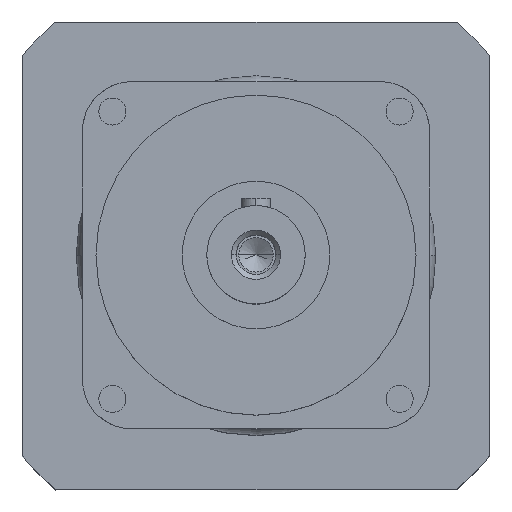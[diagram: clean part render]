
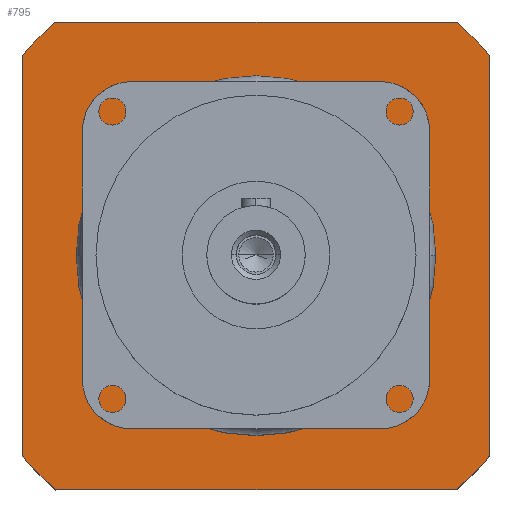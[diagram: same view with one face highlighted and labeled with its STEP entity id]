
A CAD part, top view. The second image highlights one B-rep face of the part: STEP entity #795.
In plain terms, the highlighted planar face has unit normal (0, 0, 1).
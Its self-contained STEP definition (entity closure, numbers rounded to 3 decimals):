
#26 = LINE ( 'NONE', #713, #2333 ) ;
#38 = CIRCLE ( 'NONE', #3123, 125. ) ;
#60 = VERTEX_POINT ( 'NONE', #3921 ) ;
#131 = CARTESIAN_POINT ( 'NONE',  ( 81.24, 95., -166.5 ) ) ;
#152 = ORIENTED_EDGE ( 'NONE', *, *, #1672, .T. ) ;
#178 = DIRECTION ( 'NONE',  ( -1., 0., 0. ) ) ;
#219 = DIRECTION ( 'NONE',  ( 0., 1., 0. ) ) ;
#243 = VECTOR ( 'NONE', #3460, 1000. ) ;
#298 = AXIS2_PLACEMENT_3D ( 'NONE', #967, #3140, #1279 ) ;
#362 = AXIS2_PLACEMENT_3D ( 'NONE', #2037, #3893, #1721 ) ;
#480 = EDGE_CURVE ( 'NONE', #2321, #1794, #26, .T. ) ;
#498 = DIRECTION ( 'NONE',  ( -1., 0., 0. ) ) ;
#617 = EDGE_CURVE ( 'NONE', #2606, #1172, #3416, .T. ) ;
#713 = CARTESIAN_POINT ( 'NONE',  ( -95., 0., -166.5 ) ) ;
#739 = VERTEX_POINT ( 'NONE', #131 ) ;
#795 = ADVANCED_FACE ( 'NONE', ( #3741, #2909 ), #3278, .F. ) ;
#953 = DIRECTION ( 'NONE',  ( 0., -1., 0. ) ) ;
#967 = CARTESIAN_POINT ( 'NONE',  ( 0., 0., -166.5 ) ) ;
#977 = EDGE_CURVE ( 'NONE', #739, #60, #3264, .T. ) ;
#1008 = CIRCLE ( 'NONE', #2947, 125. ) ;
#1147 = VECTOR ( 'NONE', #219, 1000. ) ;
#1170 = CARTESIAN_POINT ( 'NONE',  ( 95., 81.24, -166.5 ) ) ;
#1172 = VERTEX_POINT ( 'NONE', #2450 ) ;
#1227 = CARTESIAN_POINT ( 'NONE',  ( 0., 0., -166.5 ) ) ;
#1279 = DIRECTION ( 'NONE',  ( 1., 0., 0. ) ) ;
#1306 = EDGE_CURVE ( 'NONE', #60, #2321, #1465, .T. ) ;
#1430 = ORIENTED_EDGE ( 'NONE', *, *, #3221, .T. ) ;
#1438 = ORIENTED_EDGE ( 'NONE', *, *, #480, .T. ) ;
#1465 = CIRCLE ( 'NONE', #362, 125. ) ;
#1538 = DIRECTION ( 'NONE',  ( 1., 0., 0. ) ) ;
#1668 = VERTEX_POINT ( 'NONE', #2480 ) ;
#1672 = EDGE_CURVE ( 'NONE', #3829, #739, #1008, .T. ) ;
#1721 = DIRECTION ( 'NONE',  ( -1., 0., 0. ) ) ;
#1766 = DIRECTION ( 'NONE',  ( 0., 0., -1. ) ) ;
#1794 = VERTEX_POINT ( 'NONE', #3298 ) ;
#1819 = CARTESIAN_POINT ( 'NONE',  ( -73., 0., -166.5 ) ) ;
#1941 = CIRCLE ( 'NONE', #3503, 73. ) ;
#1989 = DIRECTION ( 'NONE',  ( 0., 0., 1. ) ) ;
#2029 = CARTESIAN_POINT ( 'NONE',  ( 95., 0., -166.5 ) ) ;
#2037 = CARTESIAN_POINT ( 'NONE',  ( 0., 0., -166.5 ) ) ;
#2098 = CARTESIAN_POINT ( 'NONE',  ( 0., 0., -166.5 ) ) ;
#2113 = DIRECTION ( 'NONE',  ( 0., 0., 1. ) ) ;
#2128 = DIRECTION ( 'NONE',  ( -1., 0., 0. ) ) ;
#2161 = VERTEX_POINT ( 'NONE', #1819 ) ;
#2321 = VERTEX_POINT ( 'NONE', #3477 ) ;
#2333 = VECTOR ( 'NONE', #953, 1000. ) ;
#2362 = CARTESIAN_POINT ( 'NONE',  ( 95., -95., -166.5 ) ) ;
#2369 = CARTESIAN_POINT ( 'NONE',  ( 95., -81.24, -166.5 ) ) ;
#2374 = ORIENTED_EDGE ( 'NONE', *, *, #3883, .F. ) ;
#2433 = VECTOR ( 'NONE', #2581, 1000. ) ;
#2450 = CARTESIAN_POINT ( 'NONE',  ( 81.24, -95., -166.5 ) ) ;
#2480 = CARTESIAN_POINT ( 'NONE',  ( 73., 0., -166.5 ) ) ;
#2497 = CIRCLE ( 'NONE', #298, 73. ) ;
#2556 = AXIS2_PLACEMENT_3D ( 'NONE', #2098, #2113, #2128 ) ;
#2569 = CARTESIAN_POINT ( 'NONE',  ( 0., 95., -166.5 ) ) ;
#2581 = DIRECTION ( 'NONE',  ( -1., 0., 0. ) ) ;
#2606 = VERTEX_POINT ( 'NONE', #3645 ) ;
#2620 = ORIENTED_EDGE ( 'NONE', *, *, #3403, .F. ) ;
#2624 = DIRECTION ( 'NONE',  ( -1., 0., 0. ) ) ;
#2641 = DIRECTION ( 'NONE',  ( 0., 0., 1. ) ) ;
#2656 = CARTESIAN_POINT ( 'NONE',  ( 0., 0., -166.5 ) ) ;
#2753 = EDGE_CURVE ( 'NONE', #1794, #2606, #3045, .T. ) ;
#2810 = ORIENTED_EDGE ( 'NONE', *, *, #617, .T. ) ;
#2857 = ORIENTED_EDGE ( 'NONE', *, *, #977, .T. ) ;
#2900 = EDGE_LOOP ( 'NONE', ( #1438, #3567, #2810, #3691, #1430, #152, #2857, #3433 ) ) ;
#2909 = FACE_OUTER_BOUND ( 'NONE', #2900, .T. ) ;
#2947 = AXIS2_PLACEMENT_3D ( 'NONE', #2656, #2641, #2624 ) ;
#2983 = EDGE_LOOP ( 'NONE', ( #2620, #2374 ) ) ;
#3045 = CIRCLE ( 'NONE', #2556, 125. ) ;
#3099 = EDGE_CURVE ( 'NONE', #1172, #3736, #38, .T. ) ;
#3123 = AXIS2_PLACEMENT_3D ( 'NONE', #3845, #1989, #178 ) ;
#3140 = DIRECTION ( 'NONE',  ( 0., 0., 1. ) ) ;
#3221 = EDGE_CURVE ( 'NONE', #3736, #3829, #3617, .T. ) ;
#3264 = LINE ( 'NONE', #2569, #2433 ) ;
#3278 = PLANE ( 'NONE',  #3740 ) ;
#3298 = CARTESIAN_POINT ( 'NONE',  ( -95., -81.24, -166.5 ) ) ;
#3401 = DIRECTION ( 'NONE',  ( 0., 0., 1. ) ) ;
#3403 = EDGE_CURVE ( 'NONE', #1668, #2161, #2497, .T. ) ;
#3416 = LINE ( 'NONE', #3453, #243 ) ;
#3433 = ORIENTED_EDGE ( 'NONE', *, *, #1306, .T. ) ;
#3453 = CARTESIAN_POINT ( 'NONE',  ( 0., -95., -166.5 ) ) ;
#3460 = DIRECTION ( 'NONE',  ( 1., 0., 0. ) ) ;
#3477 = CARTESIAN_POINT ( 'NONE',  ( -95., 81.24, -166.5 ) ) ;
#3503 = AXIS2_PLACEMENT_3D ( 'NONE', #1227, #3401, #1538 ) ;
#3567 = ORIENTED_EDGE ( 'NONE', *, *, #2753, .T. ) ;
#3617 = LINE ( 'NONE', #2029, #1147 ) ;
#3645 = CARTESIAN_POINT ( 'NONE',  ( -81.24, -95., -166.5 ) ) ;
#3691 = ORIENTED_EDGE ( 'NONE', *, *, #3099, .T. ) ;
#3736 = VERTEX_POINT ( 'NONE', #2369 ) ;
#3740 = AXIS2_PLACEMENT_3D ( 'NONE', #2362, #1766, #498 ) ;
#3741 = FACE_BOUND ( 'NONE', #2983, .T. ) ;
#3829 = VERTEX_POINT ( 'NONE', #1170 ) ;
#3845 = CARTESIAN_POINT ( 'NONE',  ( 0., 0., -166.5 ) ) ;
#3883 = EDGE_CURVE ( 'NONE', #2161, #1668, #1941, .T. ) ;
#3893 = DIRECTION ( 'NONE',  ( 0., 0., 1. ) ) ;
#3921 = CARTESIAN_POINT ( 'NONE',  ( -81.24, 95., -166.5 ) ) ;
